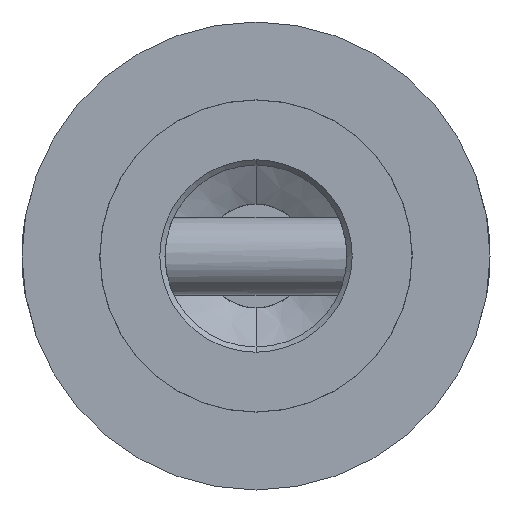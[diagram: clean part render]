
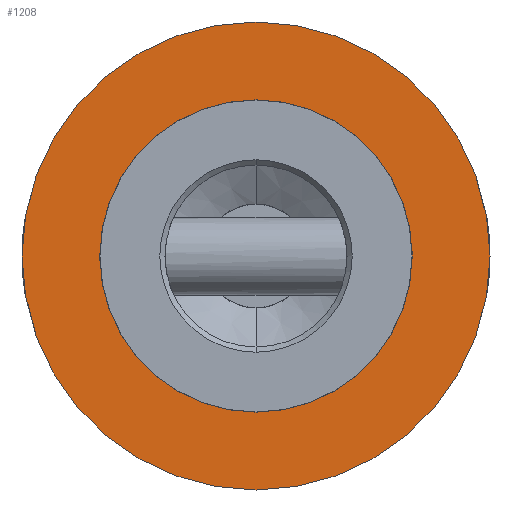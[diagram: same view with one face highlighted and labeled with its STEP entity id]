
A CAD part, front view. The second image highlights one B-rep face of the part: STEP entity #1208.
In plain terms, the highlighted planar face has unit normal (0, -1, 0).
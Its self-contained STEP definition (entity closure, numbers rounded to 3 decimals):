
#16 = EDGE_CURVE ( 'NONE', #2455, #2284, #2064, .T. ) ;
#259 = PLANE ( 'NONE',  #2727 ) ;
#270 = DIRECTION ( 'NONE',  ( 0., -1., 0. ) ) ;
#300 = CARTESIAN_POINT ( 'NONE',  ( 0., -600., 6.005 ) ) ;
#318 = EDGE_CURVE ( 'NONE', #2284, #2455, #2665, .T. ) ;
#495 = AXIS2_PLACEMENT_3D ( 'NONE', #1133, #2202, #853 ) ;
#530 = EDGE_CURVE ( 'NONE', #3124, #2437, #3393, .T. ) ;
#613 = ORIENTED_EDGE ( 'NONE', *, *, #1067, .F. ) ;
#764 = ORIENTED_EDGE ( 'NONE', *, *, #318, .T. ) ;
#782 = FACE_OUTER_BOUND ( 'NONE', #2805, .T. ) ;
#853 = DIRECTION ( 'NONE',  ( 0., 0., -1. ) ) ;
#871 = CARTESIAN_POINT ( 'NONE',  ( 0., -600., 9. ) ) ;
#880 = AXIS2_PLACEMENT_3D ( 'NONE', #2255, #2270, #1466 ) ;
#929 = DIRECTION ( 'NONE',  ( 0., -1., 0. ) ) ;
#935 = ORIENTED_EDGE ( 'NONE', *, *, #16, .T. ) ;
#1067 = EDGE_CURVE ( 'NONE', #2437, #3124, #1386, .T. ) ;
#1133 = CARTESIAN_POINT ( 'NONE',  ( 0., -600., 0. ) ) ;
#1208 = ADVANCED_FACE ( 'NONE', ( #1324, #782 ), #259, .T. ) ;
#1278 = AXIS2_PLACEMENT_3D ( 'NONE', #2139, #270, #2937 ) ;
#1324 = FACE_BOUND ( 'NONE', #2356, .T. ) ;
#1386 = CIRCLE ( 'NONE', #495, 6.005 ) ;
#1466 = DIRECTION ( 'NONE',  ( 0., 0., -1. ) ) ;
#1698 = CARTESIAN_POINT ( 'NONE',  ( 0., -600., 0. ) ) ;
#1833 = CARTESIAN_POINT ( 'NONE',  ( 0., -600., 0. ) ) ;
#1851 = DIRECTION ( 'NONE',  ( 0., -1., 0. ) ) ;
#2064 = CIRCLE ( 'NONE', #2509, 9. ) ;
#2139 = CARTESIAN_POINT ( 'NONE',  ( 0., -600., 0. ) ) ;
#2158 = DIRECTION ( 'NONE',  ( 0., 0., -1. ) ) ;
#2202 = DIRECTION ( 'NONE',  ( 0., -1., 0. ) ) ;
#2255 = CARTESIAN_POINT ( 'NONE',  ( 0., -600., 0. ) ) ;
#2270 = DIRECTION ( 'NONE',  ( 0., -1., 0. ) ) ;
#2284 = VERTEX_POINT ( 'NONE', #871 ) ;
#2356 = EDGE_LOOP ( 'NONE', ( #613, #3080 ) ) ;
#2437 = VERTEX_POINT ( 'NONE', #2888 ) ;
#2455 = VERTEX_POINT ( 'NONE', #3188 ) ;
#2509 = AXIS2_PLACEMENT_3D ( 'NONE', #1698, #929, #3348 ) ;
#2665 = CIRCLE ( 'NONE', #880, 9. ) ;
#2727 = AXIS2_PLACEMENT_3D ( 'NONE', #1833, #1851, #2158 ) ;
#2805 = EDGE_LOOP ( 'NONE', ( #935, #764 ) ) ;
#2888 = CARTESIAN_POINT ( 'NONE',  ( 0., -600., -6.005 ) ) ;
#2937 = DIRECTION ( 'NONE',  ( 0., 0., -1. ) ) ;
#3080 = ORIENTED_EDGE ( 'NONE', *, *, #530, .F. ) ;
#3124 = VERTEX_POINT ( 'NONE', #300 ) ;
#3188 = CARTESIAN_POINT ( 'NONE',  ( 0., -600., -9. ) ) ;
#3348 = DIRECTION ( 'NONE',  ( 0., 0., -1. ) ) ;
#3393 = CIRCLE ( 'NONE', #1278, 6.005 ) ;
